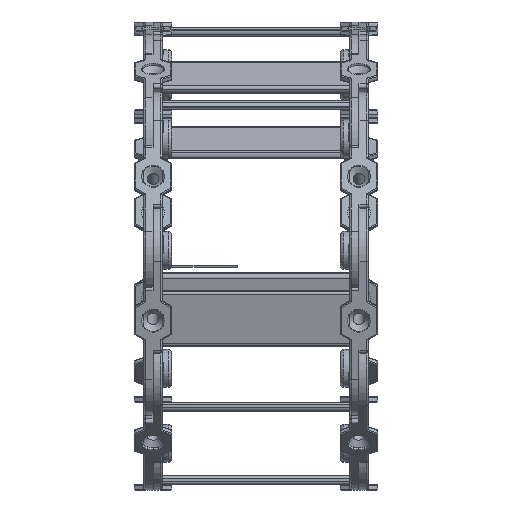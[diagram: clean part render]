
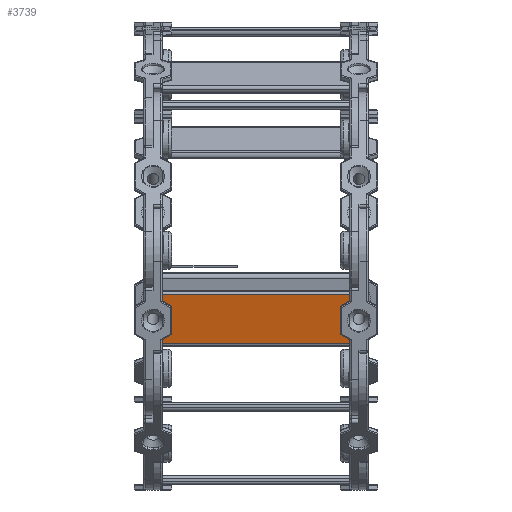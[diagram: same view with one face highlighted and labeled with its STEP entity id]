
A CAD part, front view. The second image highlights one B-rep face of the part: STEP entity #3739.
In plain terms, the highlighted planar face has unit normal (0, -0.97, -0.244) as drawn and (1, 0, 0) by its records, which use the part's own axes.
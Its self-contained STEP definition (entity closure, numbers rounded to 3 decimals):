
#3700=CARTESIAN_POINT('',(48.742,50.631,0.0));
#3701=DIRECTION('',(1.0,0.0,0.0));
#3702=DIRECTION('',(0.0,0.0,-1.0));
#3703=AXIS2_PLACEMENT_3D('',#3700,#3701,#3702);
#3704=PLANE('',#3703);
#3705=CARTESIAN_POINT('',(48.742,50.631,100.0));
#3706=VERTEX_POINT('',#3705);
#3707=CARTESIAN_POINT('',(48.742,23.635,100.0));
#3708=VERTEX_POINT('',#3707);
#3709=CARTESIAN_POINT('',(48.742,50.631,100.0));
#3710=DIRECTION('',(0.0,-1.0,0.0));
#3711=VECTOR('',#3710,26.996);
#3712=LINE('',#3709,#3711);
#3713=EDGE_CURVE('',#3706,#3708,#3712,.T.);
#3714=ORIENTED_EDGE('',*,*,#3713,.T.);
#3715=CARTESIAN_POINT('',(48.742,23.635,0.0));
#3716=VERTEX_POINT('',#3715);
#3717=CARTESIAN_POINT('',(48.742,23.635,0.0));
#3718=DIRECTION('',(0.0,0.0,1.0));
#3719=VECTOR('',#3718,100.0);
#3720=LINE('',#3717,#3719);
#3721=EDGE_CURVE('',#3716,#3708,#3720,.T.);
#3722=ORIENTED_EDGE('',*,*,#3721,.F.);
#3723=CARTESIAN_POINT('',(48.742,50.631,0.0));
#3724=VERTEX_POINT('',#3723);
#3725=CARTESIAN_POINT('',(48.742,23.635,0.0));
#3726=DIRECTION('',(0.0,1.0,0.0));
#3727=VECTOR('',#3726,26.996);
#3728=LINE('',#3725,#3727);
#3729=EDGE_CURVE('',#3716,#3724,#3728,.T.);
#3730=ORIENTED_EDGE('',*,*,#3729,.T.);
#3731=CARTESIAN_POINT('',(48.742,50.631,0.0));
#3732=DIRECTION('',(0.0,0.0,1.0));
#3733=VECTOR('',#3732,100.0);
#3734=LINE('',#3731,#3733);
#3735=EDGE_CURVE('',#3724,#3706,#3734,.T.);
#3736=ORIENTED_EDGE('',*,*,#3735,.T.);
#3737=EDGE_LOOP('',(#3714,#3722,#3730,#3736));
#3738=FACE_OUTER_BOUND('',#3737,.T.);
#3739=ADVANCED_FACE('',(#3738),#3704,.T.);
